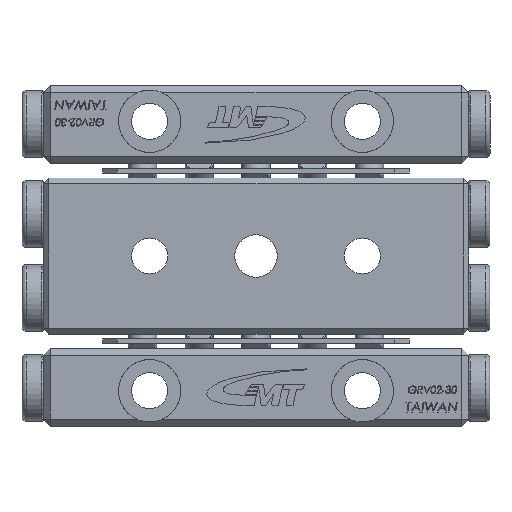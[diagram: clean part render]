
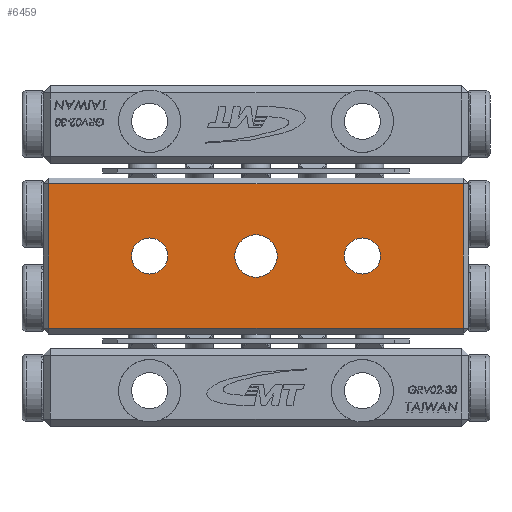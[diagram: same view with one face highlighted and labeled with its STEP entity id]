
A CAD part, front view. The second image highlights one B-rep face of the part: STEP entity #6459.
In plain terms, the highlighted planar face has unit normal (0, -1, 0).
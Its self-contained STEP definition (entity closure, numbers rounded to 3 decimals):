
#127 = AXIS2_PLACEMENT_3D ( 'NONE', #5267, #19350, #9917 ) ;
#591 = EDGE_CURVE ( 'NONE', #21958, #21958, #4111, .T. ) ;
#618 = EDGE_CURVE ( 'NONE', #21814, #21814, #29463, .T. ) ;
#987 = DIRECTION ( 'NONE',  ( 0., 1., 0. ) ) ;
#1149 = VERTEX_POINT ( 'NONE', #28770 ) ;
#1301 = EDGE_CURVE ( 'NONE', #23971, #4895, #1813, .T. ) ;
#1714 = EDGE_CURVE ( 'NONE', #4895, #1149, #26787, .T. ) ;
#1802 = ORIENTED_EDGE ( 'NONE', *, *, #27499, .T. ) ;
#1813 = LINE ( 'NONE', #11243, #3169 ) ;
#1818 = CARTESIAN_POINT ( 'NONE',  ( -14.6, 0., 5.1 ) ) ;
#2085 = CARTESIAN_POINT ( 'NONE',  ( 14.6, 0., 5.5 ) ) ;
#2174 = ORIENTED_EDGE ( 'NONE', *, *, #9754, .T. ) ;
#3123 = ORIENTED_EDGE ( 'NONE', *, *, #618, .T. ) ;
#3169 = VECTOR ( 'NONE', #13337, 1000. ) ;
#3208 = CARTESIAN_POINT ( 'NONE',  ( -15., 0., 5.5 ) ) ;
#3992 = CARTESIAN_POINT ( 'NONE',  ( -7.5, 0., 1.275 ) ) ;
#4047 = EDGE_LOOP ( 'NONE', ( #1802 ) ) ;
#4058 = VECTOR ( 'NONE', #22794, 1000. ) ;
#4111 = CIRCLE ( 'NONE', #21299, 1.275 ) ;
#4895 = VERTEX_POINT ( 'NONE', #18306 ) ;
#5108 = VERTEX_POINT ( 'NONE', #1818 ) ;
#5267 = CARTESIAN_POINT ( 'NONE',  ( 7.5, 0., 0. ) ) ;
#5452 = DIRECTION ( 'NONE',  ( 0., 0., 1. ) ) ;
#6459 = ADVANCED_FACE ( 'NONE', ( #19220, #28367, #21632, #23575 ), #11899, .F. ) ;
#6652 = CARTESIAN_POINT ( 'NONE',  ( 7.5, 0., 1.275 ) ) ;
#7290 = CIRCLE ( 'NONE', #127, 1.275 ) ;
#7424 = CARTESIAN_POINT ( 'NONE',  ( 0., 0., 0. ) ) ;
#8058 = VECTOR ( 'NONE', #8653, 1000. ) ;
#8222 = ORIENTED_EDGE ( 'NONE', *, *, #1714, .T. ) ;
#8653 = DIRECTION ( 'NONE',  ( -1., 0., 0. ) ) ;
#9348 = ORIENTED_EDGE ( 'NONE', *, *, #591, .T. ) ;
#9754 = EDGE_CURVE ( 'NONE', #5108, #23971, #13953, .T. ) ;
#9917 = DIRECTION ( 'NONE',  ( 0., 0., 1. ) ) ;
#10411 = ORIENTED_EDGE ( 'NONE', *, *, #1301, .T. ) ;
#11243 = CARTESIAN_POINT ( 'NONE',  ( -15., 0., -5.1 ) ) ;
#11899 = PLANE ( 'NONE',  #25009 ) ;
#12520 = CARTESIAN_POINT ( 'NONE',  ( 0., 0., 1.5 ) ) ;
#13337 = DIRECTION ( 'NONE',  ( 1., 0., 0. ) ) ;
#13707 = VERTEX_POINT ( 'NONE', #6652 ) ;
#13953 = LINE ( 'NONE', #25472, #4058 ) ;
#16151 = LINE ( 'NONE', #29191, #8058 ) ;
#16429 = DIRECTION ( 'NONE',  ( 0., 0., 1. ) ) ;
#17110 = CARTESIAN_POINT ( 'NONE',  ( -14.6, 0., -5.1 ) ) ;
#17541 = VECTOR ( 'NONE', #27768, 1000. ) ;
#17911 = EDGE_CURVE ( 'NONE', #1149, #5108, #16151, .T. ) ;
#18306 = CARTESIAN_POINT ( 'NONE',  ( 14.6, 0., -5.1 ) ) ;
#19220 = FACE_OUTER_BOUND ( 'NONE', #24711, .T. ) ;
#19350 = DIRECTION ( 'NONE',  ( 0., 1., 0. ) ) ;
#21299 = AXIS2_PLACEMENT_3D ( 'NONE', #23748, #23601, #27953 ) ;
#21632 = FACE_BOUND ( 'NONE', #4047, .T. ) ;
#21814 = VERTEX_POINT ( 'NONE', #12520 ) ;
#21828 = EDGE_LOOP ( 'NONE', ( #3123 ) ) ;
#21958 = VERTEX_POINT ( 'NONE', #3992 ) ;
#21971 = EDGE_LOOP ( 'NONE', ( #9348 ) ) ;
#22794 = DIRECTION ( 'NONE',  ( 0., 0., -1. ) ) ;
#23575 = FACE_BOUND ( 'NONE', #21971, .T. ) ;
#23601 = DIRECTION ( 'NONE',  ( 0., 1., 0. ) ) ;
#23748 = CARTESIAN_POINT ( 'NONE',  ( -7.5, 0., 0. ) ) ;
#23971 = VERTEX_POINT ( 'NONE', #17110 ) ;
#24664 = AXIS2_PLACEMENT_3D ( 'NONE', #7424, #987, #16429 ) ;
#24711 = EDGE_LOOP ( 'NONE', ( #2174, #10411, #8222, #29497 ) ) ;
#25009 = AXIS2_PLACEMENT_3D ( 'NONE', #3208, #28211, #5452 ) ;
#25472 = CARTESIAN_POINT ( 'NONE',  ( -14.6, 0., 5.5 ) ) ;
#26787 = LINE ( 'NONE', #2085, #17541 ) ;
#27499 = EDGE_CURVE ( 'NONE', #13707, #13707, #7290, .T. ) ;
#27768 = DIRECTION ( 'NONE',  ( 0., 0., 1. ) ) ;
#27953 = DIRECTION ( 'NONE',  ( 0., 0., 1. ) ) ;
#28211 = DIRECTION ( 'NONE',  ( 0., 1., 0. ) ) ;
#28367 = FACE_BOUND ( 'NONE', #21828, .T. ) ;
#28770 = CARTESIAN_POINT ( 'NONE',  ( 14.6, 0., 5.1 ) ) ;
#29191 = CARTESIAN_POINT ( 'NONE',  ( -15., 0., 5.1 ) ) ;
#29463 = CIRCLE ( 'NONE', #24664, 1.5 ) ;
#29497 = ORIENTED_EDGE ( 'NONE', *, *, #17911, .T. ) ;
